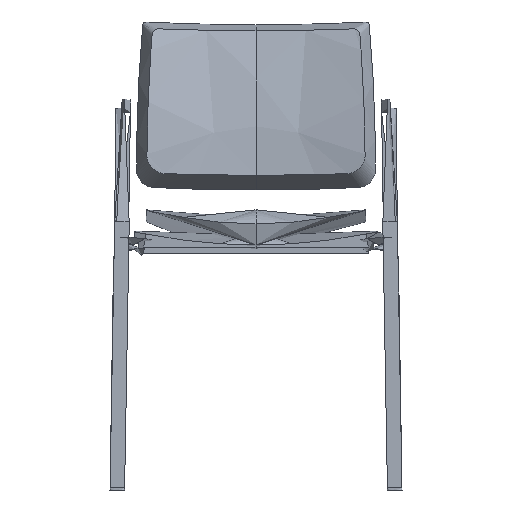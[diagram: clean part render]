
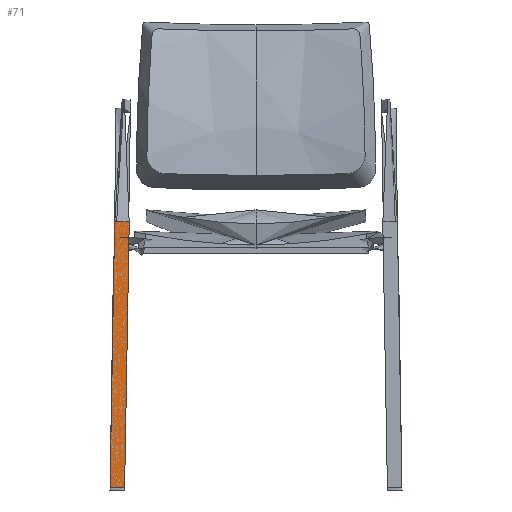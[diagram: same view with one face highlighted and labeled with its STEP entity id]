
A CAD part, front view. The second image highlights one B-rep face of the part: STEP entity #71.
In plain terms, the highlighted free-form (B-spline) face has degree [2, 1] with [5, 2] control points.
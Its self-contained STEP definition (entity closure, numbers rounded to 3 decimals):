
#71=ADVANCED_FACE('',(#147),#1043,.T.);
#147=FACE_OUTER_BOUND('',#223,.T.);
#223=EDGE_LOOP('',(#299,#300,#301,#302));
#299=ORIENTED_EDGE('',*,*,#594,.T.);
#300=ORIENTED_EDGE('',*,*,#595,.T.);
#301=ORIENTED_EDGE('',*,*,#593,.F.);
#302=ORIENTED_EDGE('',*,*,#596,.F.);
#593=EDGE_CURVE('',#940,#939,#834,.T.);
#594=EDGE_CURVE('',#941,#942,#835,.T.);
#595=EDGE_CURVE('',#942,#939,#836,.T.);
#596=EDGE_CURVE('',#941,#940,#766,.T.);
#766=B_SPLINE_CURVE_WITH_KNOTS('',3,(#1272,#1273,#1274,#1275,#1276,#1277,
#1278,#1279,#1280,#1281,#1282,#1283,#1284,#1285,#1286),.UNSPECIFIED.,.F.,
 .F.,(4,2,2,3,2,2,4),(39.913,44.878,49.844,
59.871,69.896,74.861,79.826),
 .UNSPECIFIED.);
#834=(
BOUNDED_CURVE()
B_SPLINE_CURVE(1,(#1263,#1264),.UNSPECIFIED.,.F.,.F.)
B_SPLINE_CURVE_WITH_KNOTS((2,2),(4.217,460.),.UNSPECIFIED.)
CURVE()
GEOMETRIC_REPRESENTATION_ITEM()
RATIONAL_B_SPLINE_CURVE((1.,1.))
REPRESENTATION_ITEM('')
);
#835=(
BOUNDED_CURVE()
B_SPLINE_CURVE(1,(#1265,#1266),.UNSPECIFIED.,.F.,.F.)
B_SPLINE_CURVE_WITH_KNOTS((2,2),(3.783,460.),.UNSPECIFIED.)
CURVE()
GEOMETRIC_REPRESENTATION_ITEM()
RATIONAL_B_SPLINE_CURVE((1.,1.))
REPRESENTATION_ITEM('')
);
#836=(
BOUNDED_CURVE()
B_SPLINE_CURVE(2,(#1267,#1268,#1269,#1270,#1271),.UNSPECIFIED.,.F.,.F.)
B_SPLINE_CURVE_WITH_KNOTS((3,2,3),(-39.27,-19.635,
0.),.UNSPECIFIED.)
CURVE()
GEOMETRIC_REPRESENTATION_ITEM()
RATIONAL_B_SPLINE_CURVE((1.,0.707,1.,0.707,1.))
REPRESENTATION_ITEM('')
);
#939=VERTEX_POINT('',#1239);
#940=VERTEX_POINT('',#1240);
#941=VERTEX_POINT('',#1241);
#942=VERTEX_POINT('',#1242);
#1043=(
BOUNDED_SURFACE()
B_SPLINE_SURFACE(2,1,((#1219,#1220),(#1221,#1222),(#1223,#1224),(#1225,
#1226),(#1227,#1228)),.UNSPECIFIED.,.F.,.F.,.F.)
B_SPLINE_SURFACE_WITH_KNOTS((3,2,3),(2,2),(0.,19.635,39.27),
(-1.,460.),.UNSPECIFIED.)
GEOMETRIC_REPRESENTATION_ITEM()
RATIONAL_B_SPLINE_SURFACE(((1.,1.),(0.707,
0.707),(1.,1.),(0.707,0.707),(1.,1.)))
REPRESENTATION_ITEM('')
SURFACE()
);
#1219=CARTESIAN_POINT('',(-225.519,-206.026,-1.217));
#1220=CARTESIAN_POINT('',(-217.502,-196.005,459.783));
#1221=CARTESIAN_POINT('',(-225.519,-193.529,-1.489));
#1222=CARTESIAN_POINT('',(-217.502,-183.508,459.511));
#1223=CARTESIAN_POINT('',(-238.017,-193.525,-1.271));
#1224=CARTESIAN_POINT('',(-230.,-183.503,459.728));
#1225=CARTESIAN_POINT('',(-250.515,-193.52,-1.054));
#1226=CARTESIAN_POINT('',(-242.498,-183.498,459.946));
#1227=CARTESIAN_POINT('',(-250.515,-206.017,-0.782));
#1228=CARTESIAN_POINT('',(-242.498,-195.995,460.217));
#1239=CARTESIAN_POINT('',(-217.502,-196.005,459.783));
#1240=CARTESIAN_POINT('',(-225.429,-205.913,4.));
#1241=CARTESIAN_POINT('',(-250.432,-205.913,4.));
#1242=CARTESIAN_POINT('',(-242.498,-195.995,460.217));
#1263=CARTESIAN_POINT('',(-225.429,-205.913,4.));
#1264=CARTESIAN_POINT('',(-217.502,-196.005,459.783));
#1265=CARTESIAN_POINT('',(-250.432,-205.913,4.));
#1266=CARTESIAN_POINT('',(-242.498,-195.995,460.217));
#1267=CARTESIAN_POINT('',(-242.498,-195.995,460.217));
#1268=CARTESIAN_POINT('',(-242.498,-183.498,459.946));
#1269=CARTESIAN_POINT('',(-230.,-183.503,459.728));
#1270=CARTESIAN_POINT('',(-217.502,-183.508,459.511));
#1271=CARTESIAN_POINT('',(-217.502,-196.005,459.783));
#1272=CARTESIAN_POINT('',(-250.432,-205.913,4.));
#1273=CARTESIAN_POINT('',(-250.432,-204.271,4.));
#1274=CARTESIAN_POINT('',(-250.108,-202.645,4.));
#1275=CARTESIAN_POINT('',(-248.85,-199.611,4.));
#1276=CARTESIAN_POINT('',(-247.929,-198.233,4.));
#1277=CARTESIAN_POINT('',(-244.422,-194.728,4.));
#1278=CARTESIAN_POINT('',(-241.242,-193.41,4.));
#1279=CARTESIAN_POINT('',(-237.926,-193.41,4.));
#1280=CARTESIAN_POINT('',(-234.61,-193.41,4.));
#1281=CARTESIAN_POINT('',(-231.431,-194.727,4.));
#1282=CARTESIAN_POINT('',(-227.926,-198.234,4.));
#1283=CARTESIAN_POINT('',(-227.006,-199.612,4.));
#1284=CARTESIAN_POINT('',(-225.751,-202.645,4.));
#1285=CARTESIAN_POINT('',(-225.428,-204.271,4.));
#1286=CARTESIAN_POINT('',(-225.429,-205.913,4.));
